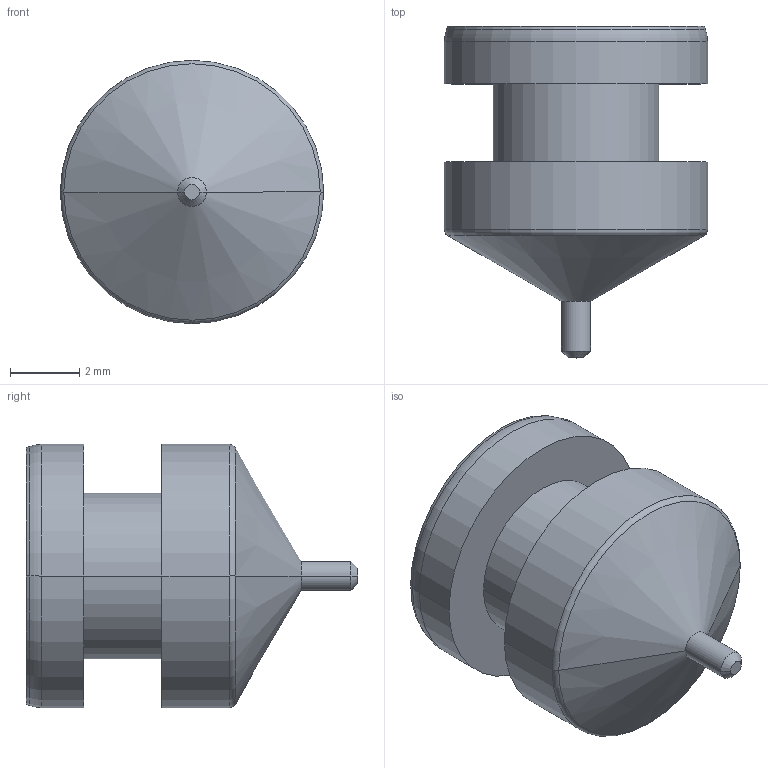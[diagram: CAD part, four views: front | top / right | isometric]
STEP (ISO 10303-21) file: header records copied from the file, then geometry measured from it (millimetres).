
FILE_DESCRIPTION (( 'STEP AP203' ), '1' );
FILE_NAME ('010501_LnG_plunger_vent-RB.STEP', '2023-07-21T18:10:15', ( '' ), ( '' ), 'SwSTEP 2.0', 'SolidWorks 2019', '' );
FILE_SCHEMA (( 'CONFIG_CONTROL_DESIGN' ));
Length unit declared in the file: millimetre
Products named in the file (1): 010501_LnG_plunger_vent-RB
Bounding box: 7.62 x 9.6 x 7.62 mm (x, y, z)
Volume: 245.3 mm3; surface area: 278.1 mm2
Topology: 1 solids, 1 shells, 22 faces, 42 edges, 24 vertices
Faces by surface type: cylinder 8, cone 6, torus 4, plane 4
Entity records: 635 total; most frequent: DIRECTION 116, CARTESIAN_POINT 89, ORIENTED_EDGE 84, AXIS2_PLACEMENT_3D 51, EDGE_CURVE 42, CIRCLE 28, EDGE_LOOP 24, VERTEX_POINT 24
